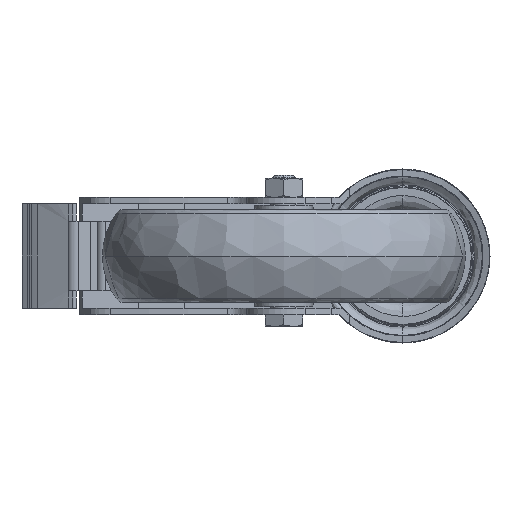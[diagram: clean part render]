
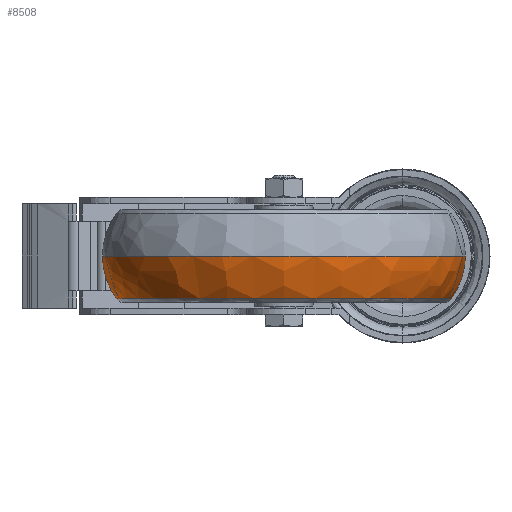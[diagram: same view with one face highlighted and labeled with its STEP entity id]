
A CAD part, front view. The second image highlights one B-rep face of the part: STEP entity #8508.
In plain terms, the highlighted free-form (B-spline) face has degree [3, 3] with [4, 4] control points.
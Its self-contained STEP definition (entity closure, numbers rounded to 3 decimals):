
#394 = CARTESIAN_POINT ( 'NONE',  ( -101.834, -219.169, -10.45 ) ) ;
#496 = CARTESIAN_POINT ( 'NONE',  ( 21.5, -97.5, -5.358 ) ) ;
#580 = CIRCLE ( 'NONE', #9860, 25. ) ;
#1211 = CARTESIAN_POINT ( 'NONE',  ( -41., -97.5, 0. ) ) ;
#1413 = CARTESIAN_POINT ( 'NONE',  ( 16.668, -212.837, -14.773 ) ) ;
#1424 = VERTEX_POINT ( 'NONE', #8226 ) ;
#2469 = ORIENTED_EDGE ( 'NONE', *, *, #4858, .F. ) ;
#2655 = EDGE_CURVE ( 'NONE', #1424, #4009, #4952, .T. ) ;
#2819 = DIRECTION ( 'NONE',  ( 1., 0., 0. ) ) ;
#2937 = EDGE_CURVE ( 'NONE', #4009, #9853, #4037, .T. ) ;
#3165 = CARTESIAN_POINT ( 'NONE',  ( 19.834, -219.169, -10.45 ) ) ;
#3244 = EDGE_LOOP ( 'NONE', ( #2469, #7369, #7526, #6516 ) ) ;
#3828 = CARTESIAN_POINT ( 'NONE',  ( -41., -97.5, -14.773 ) ) ;
#3966 = CARTESIAN_POINT ( 'NONE',  ( -98.668, -97.5, -14.773 ) ) ;
#4009 = VERTEX_POINT ( 'NONE', #9498 ) ;
#4026 = CARTESIAN_POINT ( 'NONE',  ( -103.5, -97.5, -5.358 ) ) ;
#4037 = CIRCLE ( 'NONE', #7496, 57.668 ) ;
#4413 = AXIS2_PLACEMENT_3D ( 'NONE', #5336, #7037, #7952 ) ;
#4637 = DIRECTION ( 'NONE',  ( 1., 0., 0. ) ) ;
#4689 = DIRECTION ( 'NONE',  ( 0., 0., 1. ) ) ;
#4724 = CARTESIAN_POINT ( 'NONE',  ( 21.5, -97.5, 0. ) ) ;
#4858 = EDGE_CURVE ( 'NONE', #1424, #10917, #4979, .T. ) ;
#4952 = CIRCLE ( 'NONE', #4413, 25. ) ;
#4979 = CIRCLE ( 'NONE', #7168, 62.5 ) ;
#5163 = CARTESIAN_POINT ( 'NONE',  ( -3.5, -97.5, 0. ) ) ;
#5336 = CARTESIAN_POINT ( 'NONE',  ( -78.5, -97.5, 0. ) ) ;
#6516 = ORIENTED_EDGE ( 'NONE', *, *, #9787, .F. ) ;
#6652 = CARTESIAN_POINT ( 'NONE',  ( 19.834, -97.5, -10.45 ) ) ;
#6812 = DIRECTION ( 'NONE',  ( 0., 1., 0. ) ) ;
#6819 =( BOUNDED_SURFACE ( )  B_SPLINE_SURFACE ( 3, 3, ( 
 ( #7509, #10103, #9097, #4724 ),
 ( #4026, #10962, #7405, #496 ),
 ( #8196, #394, #3165, #6652 ),
 ( #3966, #9211, #1413, #7450 ) ),
 .UNSPECIFIED., .F., .F., .T. ) 
 B_SPLINE_SURFACE_WITH_KNOTS ( ( 4, 4 ),
 ( 4, 4 ),
 ( 0., 1. ),
 ( 0., 1. ),
 .UNSPECIFIED. ) 
 GEOMETRIC_REPRESENTATION_ITEM ( )  RATIONAL_B_SPLINE_SURFACE ( (
 ( 1., 0.333, 0.333, 1.),
 ( 0.967, 0.322, 0.322, 0.967),
 ( 0.967, 0.322, 0.322, 0.967),
 ( 1., 0.333, 0.333, 1.) ) ) 
 REPRESENTATION_ITEM ( '' )  SURFACE ( )  );
#7037 = DIRECTION ( 'NONE',  ( 0., -1., 0. ) ) ;
#7168 = AXIS2_PLACEMENT_3D ( 'NONE', #1211, #4689, #4637 ) ;
#7322 = DIRECTION ( 'NONE',  ( 0., 0., 1. ) ) ;
#7369 = ORIENTED_EDGE ( 'NONE', *, *, #2655, .T. ) ;
#7405 = CARTESIAN_POINT ( 'NONE',  ( 21.5, -222.5, -5.358 ) ) ;
#7450 = CARTESIAN_POINT ( 'NONE',  ( 16.668, -97.5, -14.773 ) ) ;
#7496 = AXIS2_PLACEMENT_3D ( 'NONE', #3828, #7322, #2819 ) ;
#7509 = CARTESIAN_POINT ( 'NONE',  ( -103.5, -97.5, 0. ) ) ;
#7526 = ORIENTED_EDGE ( 'NONE', *, *, #2937, .T. ) ;
#7787 = DIRECTION ( 'NONE',  ( 1., 0., 0. ) ) ;
#7952 = DIRECTION ( 'NONE',  ( -1., 0., 0. ) ) ;
#8196 = CARTESIAN_POINT ( 'NONE',  ( -101.834, -97.5, -10.45 ) ) ;
#8226 = CARTESIAN_POINT ( 'NONE',  ( -103.5, -97.5, 0. ) ) ;
#8252 = FACE_OUTER_BOUND ( 'NONE', #3244, .T. ) ;
#8277 = CARTESIAN_POINT ( 'NONE',  ( 21.5, -97.5, 0. ) ) ;
#8508 = ADVANCED_FACE ( 'NONE', ( #8252 ), #6819, .T. ) ;
#9097 = CARTESIAN_POINT ( 'NONE',  ( 21.5, -222.5, 0. ) ) ;
#9211 = CARTESIAN_POINT ( 'NONE',  ( -98.668, -212.837, -14.773 ) ) ;
#9498 = CARTESIAN_POINT ( 'NONE',  ( -98.668, -97.5, -14.773 ) ) ;
#9787 = EDGE_CURVE ( 'NONE', #10917, #9853, #580, .T. ) ;
#9853 = VERTEX_POINT ( 'NONE', #10551 ) ;
#9860 = AXIS2_PLACEMENT_3D ( 'NONE', #5163, #6812, #7787 ) ;
#10103 = CARTESIAN_POINT ( 'NONE',  ( -103.5, -222.5, 0. ) ) ;
#10551 = CARTESIAN_POINT ( 'NONE',  ( 16.668, -97.5, -14.773 ) ) ;
#10917 = VERTEX_POINT ( 'NONE', #8277 ) ;
#10962 = CARTESIAN_POINT ( 'NONE',  ( -103.5, -222.5, -5.358 ) ) ;
